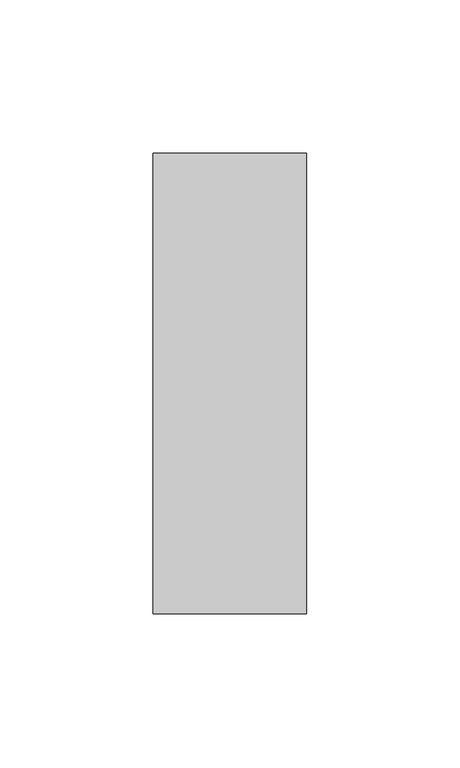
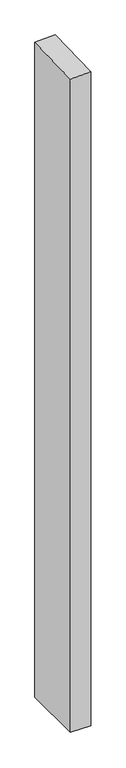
"""IFC4 building model written with IfcOpenShell, lengths in millimetres: member geometry, Прямоугольный импост : 50 x 150 мм."""

from ifc_helpers import new_model, si_unit, origin, place, context, project, spatial, faceted_brep, source, transform, mapped, element, save


def member_c5081921(model_context):
    return source(origin(), model_context, "Body", "Brep", [
        faceted_brep([(-25.0, 75.0, 0.9226827), (25.0, 75.0, 2.663042), (25.0, 75.0, -1688.3858729), (-25.0, 75.0, -1686.9050823), (-25.0, -75.0, -2.663042), (-25.0, -75.0, -1685.7037719), (25.0, -75.0, -0.9226827), (25.0, -75.0, -1687.1845625)], [[[0, 1, 2, 3]], [[4, 0, 3, 5]], [[6, 4, 5, 7]], [[1, 6, 7, 2]], [[1, 0, 4, 6]], [[2, 7, 5, 3]]]),
    ])


if __name__ == "__main__":
    model = new_model("IFC4")
    model_context = context("Model", 3, world=origin())
    ifc_project = project(units=[si_unit("LENGTHUNIT", "METRE", prefix="MILLI")], contexts=[model_context])
    site = spatial("IfcSite", under=ifc_project)
    building = spatial("IfcBuilding", under=site)
    placement = place(None, origin())
    member_shape = member_c5081921(model_context)
    element("IfcMember", 1, ObjectType="Прямоугольный импост : 50 x 150 мм", at=placement, inside=building, context=model_context, shape_type="MappedRepresentation", body=[
        mapped(member_shape, transform((0.0, 0.0, 0.0), x_axis=(1.0, 0.0, 0.0), y_axis=(0.0, 1.0, 0.0), z_axis=(0.0, 0.0, 1.0))),
    ])
    save(model, "model.ifc")
